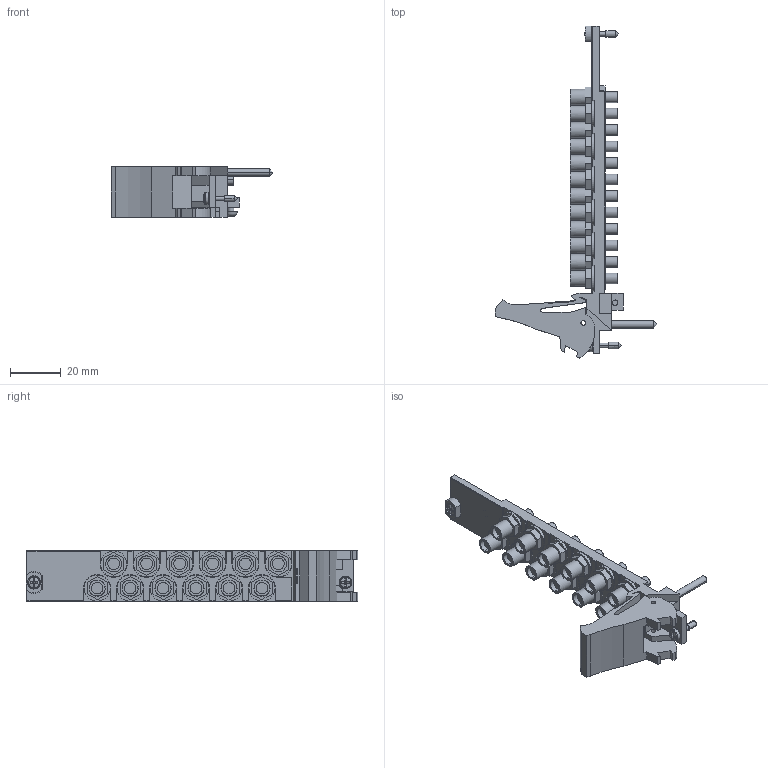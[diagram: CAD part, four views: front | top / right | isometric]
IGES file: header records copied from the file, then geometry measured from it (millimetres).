
Start section:  PTC IGES file: cu_pxi-2548.igs
Global section: file name: cu_pxi-2548.igs; native system: Pro/ENGINEER by Parametric Technology Corporation; preprocessor: 2006080; author: jjorden; organization: Unknown; date: 091006.103556; units: inch
Bounding box: 63.53 x 130.43 x 20.02 mm (x, y, z)
Surface area: 20257.6 mm2 (no closed solid volume)
Topology: 0 solids, 0 shells, 977 faces, 5016 edges, 5008 vertices
Faces by surface type: bspline 591, revolution 386
